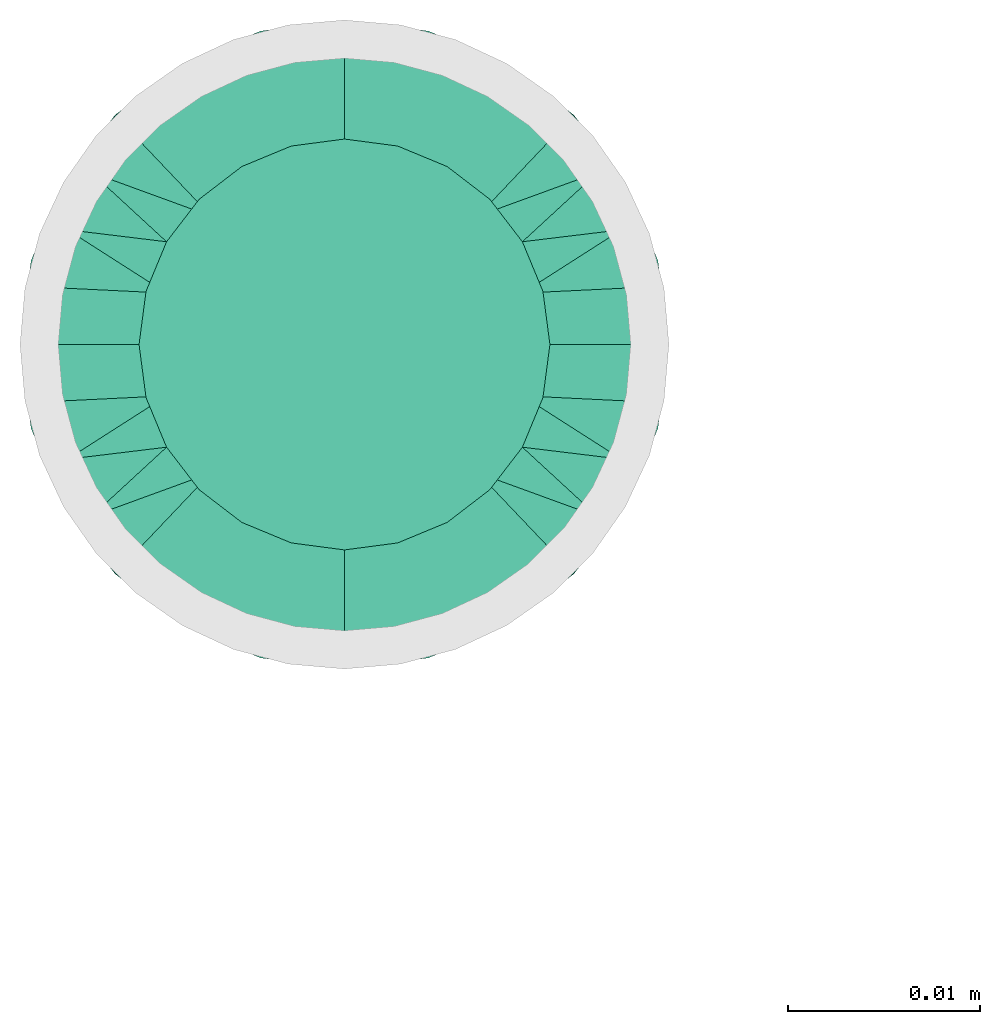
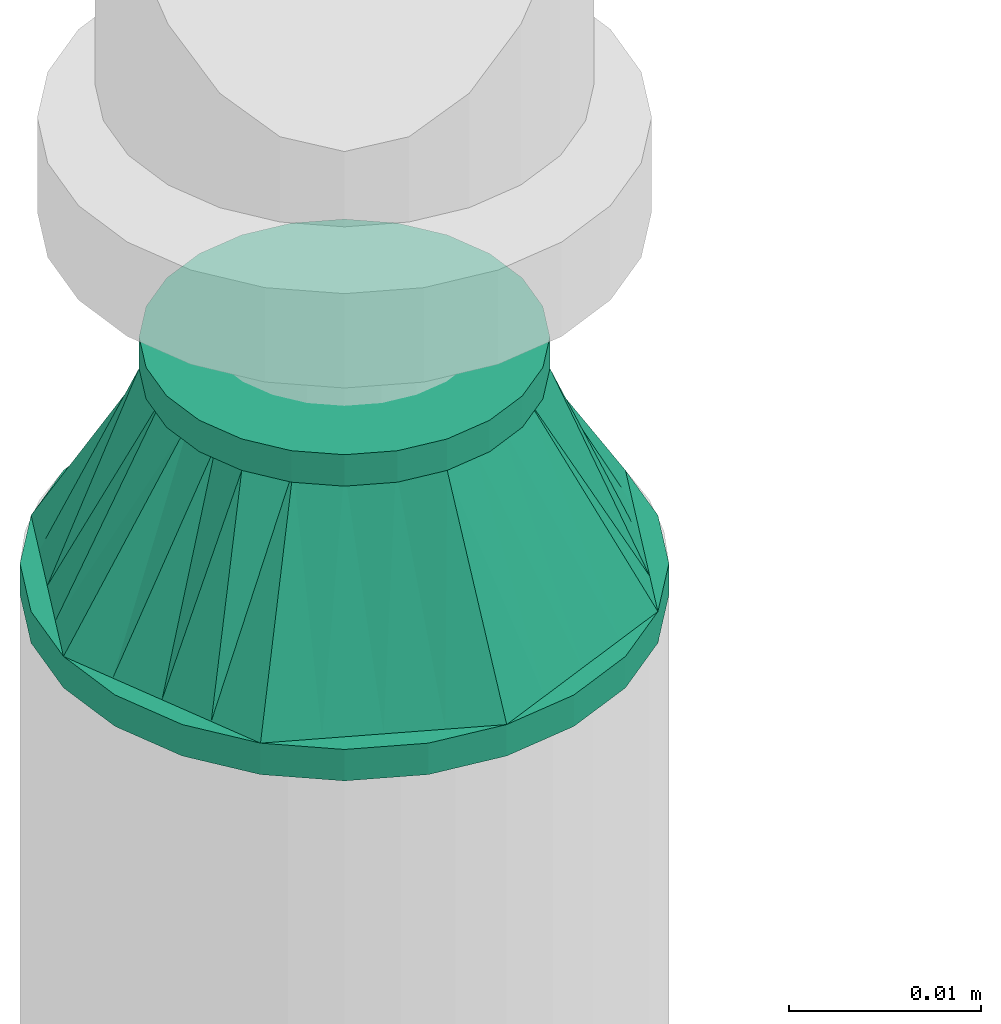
# One storey, part 25 of 44: 1 flow fitting.
"""IFC2X3 building model written with IfcOpenShell, lengths in millimetres."""

from ifc_helpers import new_model, entity, si_unit, converted_unit, derived_unit, direction, frame, origin_with_axes, place, context, subcontext, project, spatial, open_shell, surface_model, source, transform, mapped, type_object, element, save


model = new_model("IFC2X3")

# Units and contexts
model_context = context("Model", 3, precision=0.01, world=frame((0.0, 4.29681676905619e-09, 0.0)), true_north=direction((4.01073788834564e-13, 1.0)))
plan_context = context("Plan", 3, precision=0.01, world=frame((0.0, 4.29681676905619e-09, 0.0)), true_north=direction((4.01073788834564e-13, 1.0)))
body_context = subcontext(model_context, "Body", "Model", "MODEL_VIEW")
ifc_project = project(units=[converted_unit("PLANEANGLEUNIT", "DEGREE", entity("IfcPositiveLengthMeasure", 0.0174532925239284), si_unit("PLANEANGLEUNIT", "RADIAN"), dimensions=[0, 0, 0, 0, 0, 0, 0]), si_unit("AREAUNIT", "SQUARE_METRE"), si_unit("LENGTHUNIT", "METRE", prefix="MILLI"), si_unit("MASSUNIT", "GRAM", prefix="KILO"), si_unit("POWERUNIT", "WATT"), si_unit("PRESSUREUNIT", "PASCAL"), si_unit("FORCEUNIT", "NEWTON", prefix="KILO"), si_unit("ELECTRICVOLTAGEUNIT", "VOLT"), si_unit("ELECTRICCURRENTUNIT", "AMPERE"), si_unit("THERMODYNAMICTEMPERATUREUNIT", "DEGREE_CELSIUS"), si_unit("TIMEUNIT", "SECOND"), si_unit("VOLUMEUNIT", "CUBIC_METRE"), derived_unit("LINEARVELOCITYUNIT", [(si_unit("LENGTHUNIT", "METRE"), 1), (si_unit("TIMEUNIT", "SECOND"), -1)]), derived_unit("VOLUMETRICFLOWRATEUNIT", [(si_unit("VOLUMEUNIT", "CUBIC_METRE"), 1), (si_unit("TIMEUNIT", "SECOND"), -1)]), derived_unit("THERMALTRANSMITTANCEUNIT", [(si_unit("POWERUNIT", "WATT"), 1), (si_unit("THERMODYNAMICTEMPERATUREUNIT", "KELVIN"), -1), (si_unit("AREAUNIT", "SQUARE_METRE"), -1)]), derived_unit("SOUNDPRESSUREUNIT", [(si_unit("PRESSUREUNIT", "PASCAL"), 1)])], contexts=[model_context, plan_context])

# Site, building, storey
site_placement = place(None, frame((0.0, -4.29681676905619e-09, 0.0), z_axis=(0.0, 0.0, 1.0), x_axis=(1.0, 0.0, 0.0)))
site = spatial("IfcSite", under=ifc_project, at=site_placement, CompositionType="ELEMENT")
building_placement = place(site_placement, frame((0.0, 4.29681676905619e-09, 0.0), z_axis=(0.0, 0.0, 1.0), x_axis=(1.0, 0.0, 0.0)))
building = spatial("IfcBuilding", under=site, at=building_placement, Name="mc-building", CompositionType="ELEMENT")
storey_placement = place(building_placement, frame((0.0, 0.0, 207370.0), z_axis=(0.0, 0.0, 1.0), x_axis=(1.0, 0.0, 0.0)))
storey = spatial("IfcBuildingStorey", under=building, at=storey_placement, Name="Nivå E", CompositionType="ELEMENT", Elevation=207370.0)

# Flow fitting
pipe_fitting_type = type_object("IfcPipeFittingType", Name="magi_pipe_fe_reducer_centric_short_NOR", PredefinedType="TRANSITION")
shared_shape = source(origin_with_axes(), body_context, "Body", "SurfaceModel", [
    surface_model("IfcShellBasedSurfaceModel", [(14.4, 5.35, -9.26647), (14.4, 0.0, -10.7), (14.4, 2.76936, -10.33541), (14.4, 10.33541, -2.76936), (14.4, 7.56604, -7.56604), (14.4, -10.33541, -2.76936), (14.4, 9.26647, -5.35), (14.4, 0.0, 10.7), (14.4, -5.35, -9.26647), (14.4, -2.76936, -10.33541), (14.4, -7.56604, -7.56604), (14.4, -9.26647, -5.35), (14.4, 10.7, 0.0), (14.4, 10.33541, 2.76936), (14.4, 9.26647, 5.35), (14.4, 7.56604, 7.56604), (14.4, 2.76936, 10.33541), (14.4, 5.35, 9.26647), (14.4, -10.33541, 2.76936), (14.4, -7.56604, 7.56604), (14.4, -9.26647, 5.35), (14.4, -10.7, 0.0), (14.4, -2.76936, 10.33541), (14.4, -5.35, 9.26647), (12.4, 2.76936, 10.33541), (12.4, -10.33541, -2.76936), (12.4, 0.0, 10.7), (12.4, 5.35, 9.26647), (12.4, 7.56604, 7.56604), (12.4, 9.26647, 5.35), (12.4, 10.33541, 2.76936), (12.4, -10.33541, 2.76936), (12.4, -2.76936, 10.33541), (12.4, -7.56604, 7.56604), (12.4, -5.35, 9.26647), (12.4, -9.26647, 5.35), (12.4, -10.7, 0.0), (12.4, 10.33541, -2.76936), (12.4, 5.35, -9.26647), (12.4, 9.26647, -5.35), (12.4, 7.56604, -7.56604), (12.4, 2.76936, -10.33541), (12.4, -9.26647, -5.35), (12.4, -5.35, -9.26647), (12.4, -7.56604, -7.56604), (12.4, 0.0, -10.7), (12.4, -2.76936, -10.33541), (12.4, 10.7, 0.0), (-2.0, 11.9501, 11.9501), (-2.0, 0.0, 16.9), (-2.0, 4.37404, 16.32415), (-2.0, 8.45, 14.63583), (-2.0, 14.63583, 8.45), (-2.0, 16.32415, 4.37404), (-2.0, -16.32415, 4.37404), (-2.0, -8.45, 14.63583), (-2.0, -14.63583, 8.45), (-2.0, -11.9501, 11.9501), (-2.0, -4.37404, 16.32415), (-2.0, -16.32415, -4.37404), (-2.0, -16.9, 0.0), (-2.0, -8.45, -14.63583), (-2.0, 16.32415, -4.37404), (-2.0, 11.9501, -11.9501), (-2.0, 14.63583, -8.45), (-2.0, 8.45, -14.63583), (-2.0, 4.37404, -16.32415), (-2.0, 0.0, -16.9), (-2.0, -11.9501, -11.9501), (-2.0, -14.63583, -8.45), (-2.0, -4.37404, -16.32415), (-2.0, 16.9, 0.0), (0.0, 4.37404, -16.32415), (0.0, 8.45, -14.63583), (0.0, 11.9501, -11.9501), (0.0, 0.0, -16.9), (0.0, 16.32415, -4.37404), (0.0, 16.32415, 4.37404), (0.0, 14.63583, -8.45), (0.0, -8.45, -14.63583), (0.0, -4.37404, -16.32415), (0.0, -11.9501, -11.9501), (0.0, -16.32415, -4.37404), (0.0, -14.63583, -8.45), (0.0, -16.32415, 4.37404), (0.0, 16.9, 0.0), (0.0, 14.63583, 8.45), (0.0, 11.9501, 11.9501), (0.0, 4.37404, 16.32415), (0.0, 8.45, 14.63583), (0.0, 0.0, 16.9), (0.0, -14.63583, 8.45), (0.0, -16.9, 0.0), (0.0, -8.45, 14.63583), (0.0, -11.9501, 11.9501), (0.0, -4.37404, 16.32415), (12.4, 9.3625, -2.31662), (0.0, 14.42505, -5.97505), (0.0, 15.66253, -2.98753), (12.4, -6.6875, -6.94985), (0.0, -13.18758, -8.96258), (0.0, 2.98753, -15.66253), (12.4, 0.0, -9.26647), (12.4, 6.6875, -6.94985), (0.0, 8.96258, -13.18758), (12.4, -9.3625, -2.31662), (0.0, -15.66253, -2.98753), (0.0, -14.42505, -5.97505), (0.0, 5.97505, -14.42505), (0.0, -2.98753, -15.66253), (0.0, -8.96258, -13.18758), (0.0, 13.18758, -8.96258), (12.4, 8.025, -4.63324), (12.4, -2.675, -9.26647), (12.4, 2.675, -9.26647), (0.0, -5.97505, -14.42505), (12.4, -8.025, -4.63324), (12.4, -9.3625, 2.31662), (0.0, -14.42505, 5.97505), (0.0, -15.66253, 2.98753), (12.4, 6.6875, 6.94985), (0.0, 13.18758, 8.96258), (0.0, -2.98753, 15.66253), (12.4, 0.0, 9.26647), (12.4, -6.6875, 6.94985), (0.0, -8.96258, 13.18758), (12.4, 9.3625, 2.31662), (0.0, 15.66253, 2.98753), (0.0, 14.42505, 5.97505), (0.0, -5.97505, 14.42505), (0.0, 2.98753, 15.66253), (0.0, 8.96258, 13.18758), (0.0, -13.18758, 8.96258), (12.4, -8.025, 4.63324), (12.4, 2.675, 9.26647), (12.4, -2.675, 9.26647), (0.0, 5.97505, 14.42505), (12.4, 8.025, 4.63324)], [open_shell([[[0, 1, 2]], [[3, 0, 4]], [[5, 0, 3]], [[3, 4, 6]], [[7, 5, 3]], [[1, 8, 9]], [[1, 0, 8]], [[10, 5, 11]], [[5, 10, 8]], [[0, 5, 8]], [[3, 12, 13]], [[13, 14, 15]], [[13, 15, 16]], [[7, 3, 16]], [[16, 15, 17]], [[7, 18, 5]], [[18, 19, 20]], [[21, 5, 18]], [[19, 22, 23]], [[22, 19, 18]], [[7, 22, 18]], [[13, 16, 3]], [[24, 25, 26]], [[27, 25, 24]], [[28, 29, 30]], [[28, 25, 27]], [[31, 26, 25]], [[32, 33, 34]], [[33, 32, 31]], [[33, 31, 35]], [[32, 26, 31]], [[31, 25, 36]], [[30, 37, 28]], [[25, 28, 37]], [[38, 37, 39]], [[37, 38, 25]], [[38, 39, 40]], [[41, 25, 38]], [[42, 43, 44]], [[43, 42, 25]], [[43, 45, 46]], [[43, 25, 41]], [[41, 45, 43]], [[37, 30, 47]], [[25, 5, 36]], [[42, 11, 25]], [[8, 44, 43]], [[42, 44, 10]], [[9, 43, 46]], [[25, 11, 5]], [[5, 21, 36]], [[9, 8, 43]], [[10, 44, 8]], [[10, 11, 42]], [[1, 9, 46]], [[46, 45, 1]], [[41, 2, 45]], [[38, 0, 41]], [[6, 40, 39]], [[38, 40, 4]], [[3, 39, 37]], [[38, 4, 0]], [[0, 2, 41]], [[12, 3, 37]], [[6, 39, 3]], [[6, 4, 40]], [[47, 12, 37]], [[45, 2, 1]], [[30, 13, 47]], [[29, 14, 30]], [[17, 28, 27]], [[29, 28, 15]], [[16, 27, 24]], [[30, 14, 13]], [[13, 12, 47]], [[16, 17, 27]], [[15, 28, 17]], [[15, 14, 29]], [[7, 16, 24]], [[24, 26, 7]], [[32, 22, 26]], [[34, 23, 32]], [[20, 33, 35]], [[34, 33, 19]], [[18, 35, 31]], [[34, 19, 23]], [[23, 22, 32]], [[21, 18, 31]], [[20, 35, 18]], [[20, 19, 33]], [[36, 21, 31]], [[26, 22, 7]], [[48, 49, 50]], [[48, 50, 51]], [[48, 52, 53]], [[48, 53, 49]], [[49, 53, 54]], [[55, 56, 57]], [[55, 58, 49]], [[56, 55, 49]], [[49, 54, 56]], [[54, 59, 60]], [[54, 53, 61]], [[53, 62, 63]], [[63, 62, 64]], [[63, 65, 66]], [[61, 53, 63]], [[67, 63, 66]], [[59, 68, 69]], [[68, 59, 61]], [[61, 67, 70]], [[59, 54, 61]], [[63, 67, 61]], [[53, 71, 62]], [[72, 73, 74]], [[75, 72, 74]], [[74, 76, 77]], [[76, 74, 78]], [[74, 77, 79]], [[75, 79, 80]], [[75, 74, 79]], [[81, 82, 83]], [[82, 81, 79]], [[79, 84, 82]], [[77, 76, 85]], [[77, 86, 87]], [[77, 87, 88]], [[88, 84, 79]], [[88, 87, 89]], [[84, 88, 90]], [[90, 91, 84]], [[92, 82, 84]], [[91, 93, 94]], [[91, 90, 93]], [[93, 90, 95]], [[79, 77, 88]], [[59, 82, 60]], [[69, 83, 59]], [[79, 68, 61]], [[69, 68, 81]], [[80, 61, 70]], [[59, 83, 82]], [[82, 92, 60]], [[80, 79, 61]], [[81, 68, 79]], [[81, 83, 69]], [[75, 80, 70]], [[70, 67, 75]], [[66, 72, 67]], [[65, 73, 66]], [[78, 63, 64]], [[65, 63, 74]], [[76, 64, 62]], [[65, 74, 73]], [[73, 72, 66]], [[85, 76, 62]], [[78, 64, 76]], [[78, 74, 63]], [[71, 85, 62]], [[67, 72, 75]], [[53, 77, 71]], [[52, 86, 53]], [[89, 48, 51]], [[52, 48, 87]], [[88, 51, 50]], [[53, 86, 77]], [[77, 85, 71]], [[88, 89, 51]], [[87, 48, 89]], [[87, 86, 52]], [[90, 88, 50]], [[50, 49, 90]], [[58, 95, 49]], [[55, 93, 58]], [[91, 57, 56]], [[55, 57, 94]], [[84, 56, 54]], [[55, 94, 93]], [[93, 95, 58]], [[92, 84, 54]], [[91, 56, 84]], [[91, 94, 57]], [[60, 92, 54]], [[49, 95, 90]], [[27, 34, 47]], [[47, 34, 43]], [[43, 38, 47]], [[43, 34, 36]], [[90, 87, 94]], [[92, 94, 87]], [[87, 74, 92]], [[75, 92, 74]], [[81, 92, 75]], [[74, 87, 85]], [[96, 97, 98]], [[81, 99, 100]], [[101, 102, 75]], [[98, 85, 47]], [[74, 103, 104]], [[104, 103, 38]], [[105, 106, 107]], [[38, 108, 104]], [[102, 109, 75]], [[110, 99, 81]], [[47, 96, 98]], [[103, 111, 112]], [[109, 102, 113]], [[36, 92, 106]], [[102, 101, 114]], [[110, 115, 43]], [[96, 112, 97]], [[107, 116, 105]], [[36, 106, 105]], [[113, 115, 109]], [[43, 115, 113]], [[116, 107, 100]], [[108, 38, 114]], [[111, 103, 74]], [[111, 97, 112]], [[99, 110, 43]], [[116, 100, 99]], [[101, 108, 114]], [[117, 118, 119]], [[87, 120, 121]], [[122, 123, 90]], [[119, 92, 36]], [[94, 124, 125]], [[125, 124, 34]], [[126, 127, 128]], [[34, 129, 125]], [[123, 130, 90]], [[131, 120, 87]], [[36, 117, 119]], [[124, 132, 133]], [[130, 123, 134]], [[47, 85, 127]], [[123, 122, 135]], [[131, 136, 27]], [[117, 133, 118]], [[128, 137, 126]], [[47, 127, 126]], [[134, 136, 130]], [[27, 136, 134]], [[137, 128, 121]], [[129, 34, 135]], [[132, 124, 94]], [[132, 118, 133]], [[120, 131, 27]], [[137, 121, 120]], [[122, 129, 135]]])]),
])
flow_fitting_placement = place(storey_placement, frame((521500.0, 459009.83177, 3027.60555000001), z_axis=(1.0, 0.0, 0.0), x_axis=(0.0, 0.0, 1.0)))
element("IfcFlowFitting", 1, at=flow_fitting_placement, inside=storey, type_object=pipe_fitting_type, Name="magi_pipe_fe_reducer_centric_short_NOR", context=body_context, shape_type="MappedRepresentation", body=[
    mapped(shared_shape, transform((0.0, 0.0, 0.0), scale=1.0)),
])

save(model, "model.ifc")
